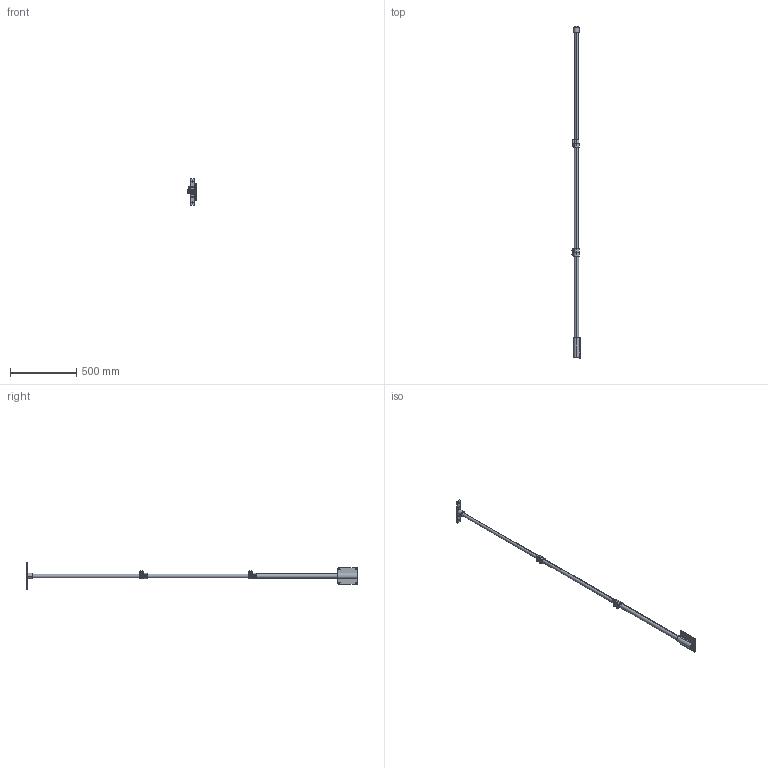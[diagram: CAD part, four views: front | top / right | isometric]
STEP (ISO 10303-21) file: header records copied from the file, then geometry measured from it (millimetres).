
FILE_DESCRIPTION (( 'STEP AP214' ), '1' );
FILE_NAME ('TPM Assembly Extended.STEP', '2015-04-21T20:26:57', ( '' ), ( '' ), 'SwSTEP 2.0', 'SolidWorks 2015', '' );
FILE_SCHEMA (( 'AUTOMOTIVE_DESIGN' ));
Length unit declared in the file: inch
Products named in the file (9): Knob; hex nut_ai_HNUT 0.2500-20-D-N; socket head cap screw_ai_HX-SHCS 0.25-20x0.875x0.875-S; hex screw_ai_PL-HHMS 0.19-32x1.25x1.25-S; flat washer type b regular_ai_Regular FW 0.19; tripod piece 3; standard head; One legged tripod Retracted_Extended; TPM Assembly Extended
Assembly tree (13 placements, depth 2):
  TPM Assembly Extended
    One legged tripod Retracted_Extended
    standard head
    tripod piece 3
    flat washer type b regular_ai_Regular FW 0.19  x2
    hex screw_ai_PL-HHMS 0.19-32x1.25x1.25-S  x2
    socket head cap screw_ai_HX-SHCS 0.25-20x0.875x0.875-S  x2
    hex nut_ai_HNUT 0.2500-20-D-N  x2
    Knob  x2
Bounding box: 61.01 x 2507.49 x 198.93 mm (x, y, z)
Volume: 1128722.9 mm3; surface area: 545113.3 mm2
Topology: 14 solids, 14 shells, 1025 faces, 2586 edges, 1616 vertices
Faces by surface type: cone 520, cylinder 350, plane 143, torus 6, bspline 6
Entity records: 18666 total; most frequent: DIRECTION 3498, CARTESIAN_POINT 3308, ORIENTED_EDGE 2968, EDGE_CURVE 1484, AXIS2_PLACEMENT_3D 1457, VERTEX_POINT 935, CIRCLE 850, EDGE_LOOP 659
